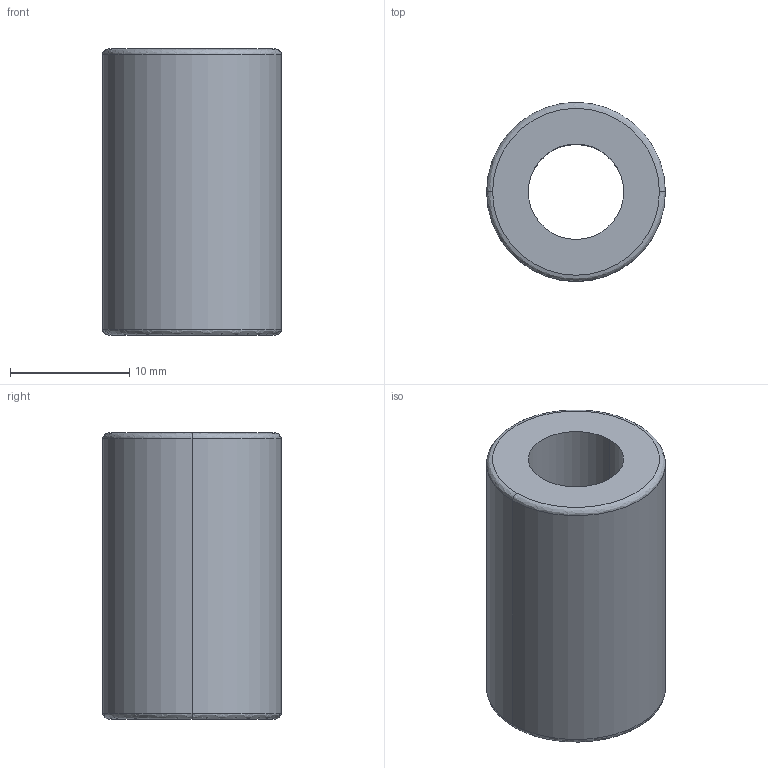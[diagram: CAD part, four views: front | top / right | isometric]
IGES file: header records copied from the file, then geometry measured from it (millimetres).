
Start section: 3D InterOp IGES (Version 21 0 1), Spatial Corp. Copyright (c) 1999-2007.
Global section: file name: CB-8.igs; native system: Spatial Corp.; preprocessor: 3D InterOp GENERIC/IGES 3.0; author: Noname; organization: Noname; date: 20220216.101632; units: millimetre
Bounding box: 15 x 15 x 24 mm (x, y, z)
Surface area: 1966.6 mm2 (no closed solid volume)
Topology: 0 solids, 0 shells, 10 faces, 40 edges, 40 vertices
Faces by surface type: revolution 8, extrusion 2
